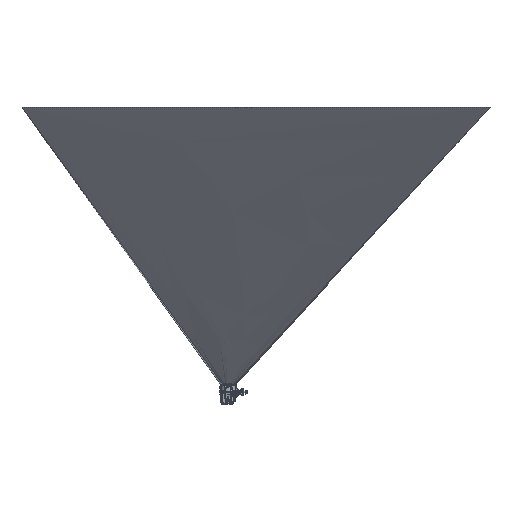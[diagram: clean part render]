
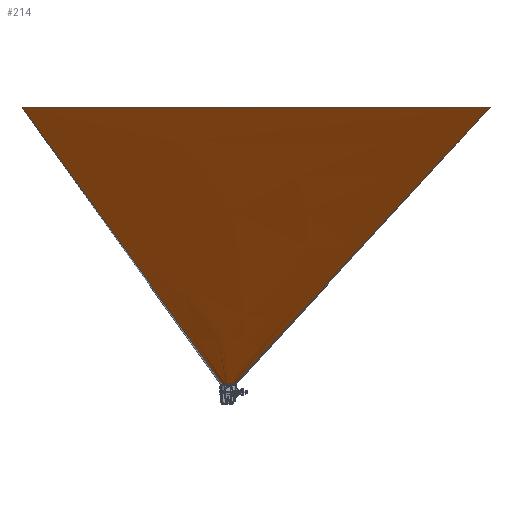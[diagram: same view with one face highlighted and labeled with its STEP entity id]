
A CAD part, left-side view. The second image highlights one B-rep face of the part: STEP entity #214.
In plain terms, the highlighted free-form (B-spline) face has degree [5, 1] with [6, 2] control points.
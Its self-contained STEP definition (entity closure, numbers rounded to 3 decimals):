
#147=CARTESIAN_POINT('Vertex',(-881.1,-942.404,1000.)) ;
#151=CARTESIAN_POINT('Control Point',(-17.678,-17.678,0.)) ;
#152=CARTESIAN_POINT('Control Point',(-881.1,-942.404,1000.)) ;
#153=CARTESIAN_POINT('Vertex',(-17.678,-17.678,0.)) ;
#172=CARTESIAN_POINT('Control Point',(-18.292,17.042,0.)) ;
#173=CARTESIAN_POINT('Control Point',(-881.1,742.208,1000.)) ;
#174=CARTESIAN_POINT('Control Point',(-23.531,11.418,0.)) ;
#175=CARTESIAN_POINT('Control Point',(-881.1,404.877,1000.)) ;
#176=CARTESIAN_POINT('Control Point',(-26.609,3.78,0.)) ;
#177=CARTESIAN_POINT('Control Point',(-881.1,67.546,1000.)) ;
#178=CARTESIAN_POINT('Control Point',(-26.459,-4.718,0.)) ;
#179=CARTESIAN_POINT('Control Point',(-881.1,-267.742,1000.)) ;
#180=CARTESIAN_POINT('Control Point',(-23.113,-12.242,0.)) ;
#181=CARTESIAN_POINT('Control Point',(-881.1,-605.073,1000.)) ;
#182=CARTESIAN_POINT('Control Point',(-17.678,-17.678,0.)) ;
#183=CARTESIAN_POINT('Control Point',(-881.1,-942.404,1000.)) ;
#185=CARTESIAN_POINT('Control Point',(-881.1,742.208,1000.)) ;
#186=CARTESIAN_POINT('Control Point',(-881.1,404.877,1000.)) ;
#187=CARTESIAN_POINT('Control Point',(-881.1,67.546,1000.)) ;
#188=CARTESIAN_POINT('Control Point',(-881.1,-267.742,1000.)) ;
#189=CARTESIAN_POINT('Control Point',(-881.1,-605.073,1000.)) ;
#190=CARTESIAN_POINT('Control Point',(-881.1,-942.404,1000.)) ;
#191=CARTESIAN_POINT('Vertex',(-881.1,742.208,1000.)) ;
#195=CARTESIAN_POINT('Control Point',(-18.292,17.042,0.)) ;
#196=CARTESIAN_POINT('Control Point',(-881.1,742.208,1000.)) ;
#197=CARTESIAN_POINT('Vertex',(-18.292,17.042,0.)) ;
#201=CARTESIAN_POINT('Control Point',(-18.292,17.042,0.)) ;
#202=CARTESIAN_POINT('Control Point',(-23.531,11.418,0.)) ;
#203=CARTESIAN_POINT('Control Point',(-26.609,3.78,0.)) ;
#204=CARTESIAN_POINT('Control Point',(-26.459,-4.718,0.)) ;
#205=CARTESIAN_POINT('Control Point',(-23.113,-12.242,0.)) ;
#206=CARTESIAN_POINT('Control Point',(-17.678,-17.678,0.)) ;
#209=ORIENTED_EDGE('',*,*,#155,.T.) ;
#210=ORIENTED_EDGE('',*,*,#193,.F.) ;
#211=ORIENTED_EDGE('',*,*,#199,.F.) ;
#212=ORIENTED_EDGE('',*,*,#207,.T.) ;
#214=ADVANCED_FACE('DIR:10002045488_light_beam',(#213),#171,.T.) ;
#150=B_SPLINE_CURVE_WITH_KNOTS('',1,(#151,#152),.UNSPECIFIED.,.F.,.U.,(2,2),(0.,1348.577),.UNSPECIFIED.) ;
#184=B_SPLINE_CURVE_WITH_KNOTS('',5,(#185,#186,#187,#188,#189,#190),.UNSPECIFIED.,.F.,.U.,(6,6),(0.,1192.954),.UNSPECIFIED.) ;
#194=B_SPLINE_CURVE_WITH_KNOTS('',1,(#195,#196),.UNSPECIFIED.,.F.,.U.,(2,2),(0.,1348.577),.UNSPECIFIED.) ;
#200=B_SPLINE_CURVE_WITH_KNOTS('',5,(#201,#202,#203,#204,#205,#206),.UNSPECIFIED.,.F.,.U.,(6,6),(0.,1192.954),.UNSPECIFIED.) ;
#171=B_SPLINE_SURFACE_WITH_KNOTS('',5,1,((#172,#173),(#174,#175),(#176,#177),(#178,#179),(#180,#181),(#182,#183)),.UNSPECIFIED.,.F.,.F.,.U.,(6,6),(2,2),(0.,1192.954),(0.,1348.577),.UNSPECIFIED.) ;
#155=EDGE_CURVE('',#154,#148,#150,.T.) ;
#193=EDGE_CURVE('',#192,#148,#184,.T.) ;
#199=EDGE_CURVE('',#198,#192,#194,.T.) ;
#207=EDGE_CURVE('',#198,#154,#200,.T.) ;
#208=EDGE_LOOP('',(#209,#210,#211,#212)) ;
#213=FACE_OUTER_BOUND('',#208,.T.) ;
#148=VERTEX_POINT('',#147) ;
#154=VERTEX_POINT('',#153) ;
#192=VERTEX_POINT('',#191) ;
#198=VERTEX_POINT('',#197) ;
